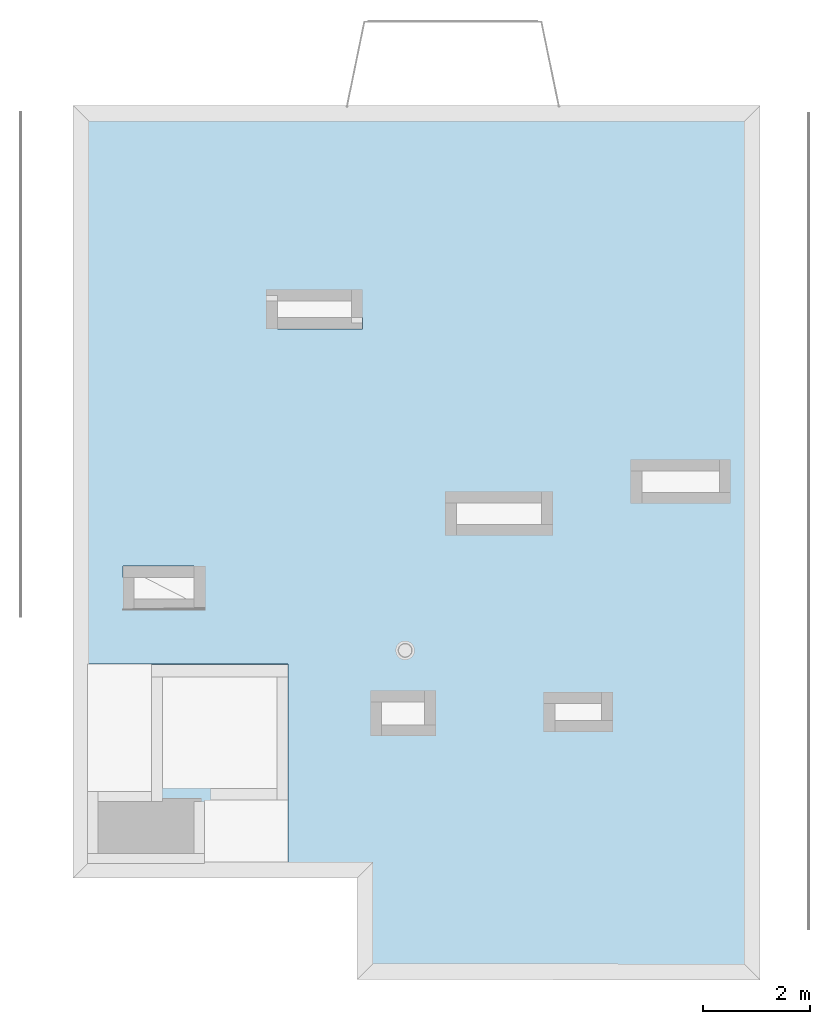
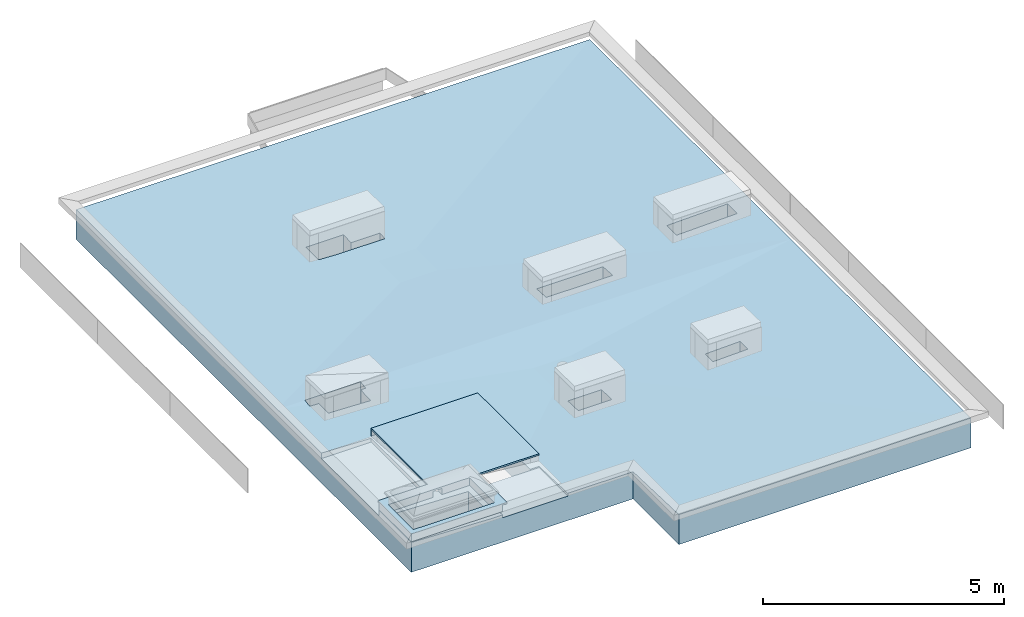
# One storey, part 3 of 6: 2 roofs.
"""IFC2X3 building model written with IfcOpenShell, lengths in millimetres."""

import ifcopenshell
import ifcopenshell.guid

model = None  # the IFC model being written
_history = None  # IfcOwnerHistory: only IFC2X3 demands one
_inside = {}  # id of a spatial element -> (the spatial element, [elements in it])
_under = {}  # id of a project, library or spatial element -> (it, [spatial elements below it])
_declared = {}  # id of a project -> (the project, [libraries it declares])
_typed = {}  # id of a type object -> (the type object, [elements of that type])
_made_of = {}  # id of a material, layer set ... -> (it, [elements and type objects made of it])


def new_model(schema):
    """Start an empty IFC model of exactly this schema.

    Asked for "IFC4X3", IfcOpenShell would pick the latest addendum, in which some entities
    have other attributes; the version numbers below select the first issue.
    IFC2X3 requires an IfcOwnerHistory on every rooted entity: one is made here for all.
    """
    global model, _history
    if schema == "IFC4X3":
        model = ifcopenshell.file(schema_version=(4, 3, 0, 0))
    else:
        model = ifcopenshell.file(schema=schema)
    _inside.clear()
    _under.clear()
    _declared.clear()
    _typed.clear()
    _made_of.clear()
    _history = None
    if model.schema == "IFC2X3":
        org = make("IfcOrganization", Name="unknown")
        user = make(
            "IfcPersonAndOrganization",
            ThePerson=make("IfcPerson", FamilyName="unknown"),
            TheOrganization=org,
        )
        app = make(
            "IfcApplication",
            ApplicationDeveloper=org,
            Version="unknown",
            ApplicationFullName="unknown",
            ApplicationIdentifier="unknown",
        )
        _history = make(
            "IfcOwnerHistory",
            OwningUser=user,
            OwningApplication=app,
            ChangeAction="ADDED",
            CreationDate=0,
        )
    return model


def make(cls, **values):
    """One entity of the class cls with the attributes given. An attribute that is None is left unset."""
    return model.create_entity(
        cls, **{name: value for name, value in values.items() if value is not None}
    )


def entity(cls, *values):
    """Any entity or typed value of the class cls, its attributes in the order of the schema. None: left unset."""
    e = model.create_entity(cls)
    for i, value in enumerate(values):
        if value is not None:
            e[i] = value
    return e


def rooted(cls, **values):
    """An entity with a GlobalId (a new one), such as an element, a storey or a relation."""
    return make(cls, GlobalId=ifcopenshell.guid.new(), OwnerHistory=_history, **values)


def si_unit(unit_type, name, prefix=None):
    """IfcSIUnit, for example si_unit("LENGTHUNIT", "METRE", prefix="MILLI")."""
    return make("IfcSIUnit", UnitType=unit_type, Prefix=prefix, Name=name)


def converted_unit(unit_type, name, factor, base, dimensions=None, offset=None):
    """IfcConversionBasedUnit, such as the inch: factor (a typed value) times the base unit."""
    return make(
        "IfcConversionBasedUnit"
        if offset is None
        else "IfcConversionBasedUnitWithOffset",
        ConversionOffset=offset,
        Dimensions=None
        if dimensions is None
        else entity("IfcDimensionalExponents", *dimensions),
        UnitType=unit_type,
        Name=name,
        ConversionFactor=make(
            "IfcMeasureWithUnit", ValueComponent=factor, UnitComponent=base
        ),
    )


def assignment(units):
    """IfcUnitAssignment: the units of a project."""
    return None if units is None else make("IfcUnitAssignment", Units=units)


def point(xyz):
    """IfcCartesianPoint."""
    return None if xyz is None else make("IfcCartesianPoint", Coordinates=xyz)


def direction(xyz):
    """IfcDirection."""
    return None if xyz is None else make("IfcDirection", DirectionRatios=xyz)


def frame(location, z_axis=None, x_axis=None):
    """IfcAxis2Placement3D, a coordinate frame: its origin and axes. An axis left out is left unset."""
    return make(
        "IfcAxis2Placement3D",
        Location=point(location),
        Axis=direction(z_axis),
        RefDirection=direction(x_axis),
    )


def origin():
    """The frame at (0, 0, 0) with its axes left unset."""
    return frame((0.0, 0.0, 0.0))


def place(relative_to, where):
    """IfcLocalPlacement: puts the frame where relative to a parent placement (None: the world)."""
    return make(
        "IfcLocalPlacement", PlacementRelTo=relative_to, RelativePlacement=where
    )


def context(
    kind, dimensions, precision=None, world=None, true_north=None, identifier=None
):
    """IfcGeometricRepresentationContext, for example the 3D "Model" context."""
    return make(
        "IfcGeometricRepresentationContext",
        ContextIdentifier=identifier,
        ContextType=kind,
        CoordinateSpaceDimension=dimensions,
        Precision=precision,
        WorldCoordinateSystem=world,
        TrueNorth=true_north,
    )


def subcontext(parent, identifier, kind, view, scale=None):
    """IfcGeometricRepresentationSubContext, for example "Body" below "Model"."""
    return make(
        "IfcGeometricRepresentationSubContext",
        ContextIdentifier=identifier,
        ContextType=kind,
        ParentContext=parent,
        TargetScale=scale,
        TargetView=view,
    )


def project(units=None, contexts=None):
    """IfcProject with its units and contexts."""
    return rooted(
        "IfcProject",
        Name="project",
        RepresentationContexts=contexts,
        UnitsInContext=assignment(units),
    )


def spatial(cls, under=None, at=None, **own):
    """A site, building, storey or space (cls), placed at a placement, below another one or the project."""
    s = rooted(cls, ObjectPlacement=at, **own)
    if under is not None:
        _under.setdefault(under.id(), (under, []))[1].append(s)
    return s


def faces_of(points, faces, orient=None, outer=None):
    """IfcFace entities. A face is a list of loops; a loop is a list of indices into points, from 0.

    orient and outer hold one flag for each loop. By default every Orientation is true, the
    first loop of a face is its IfcFaceOuterBound and the others are IfcFaceBound.
    """
    made = []
    for i, loops in enumerate(faces):
        bounds = []
        for j, loop in enumerate(loops):
            is_outer = j == 0 if outer is None else outer[i][j]
            bounds.append(
                make(
                    "IfcFaceOuterBound" if is_outer else "IfcFaceBound",
                    Bound=make("IfcPolyLoop", Polygon=[points[k] for k in loop]),
                    Orientation=True if orient is None else orient[i][j],
                )
            )
        made.append(make("IfcFace", Bounds=bounds))
    return made


def faceted_brep(points, faces, orient=None, outer=None, voids=None):
    """IfcFacetedBrep: a solid bounded by flat faces; with voids (closed shells), ...WithVoids."""
    shared = [point(p) for p in points]
    hull = make("IfcClosedShell", CfsFaces=faces_of(shared, faces, orient, outer))
    if voids is None:
        return make("IfcFacetedBrep", Outer=hull)
    return make(
        "IfcFacetedBrepWithVoids",
        Outer=hull,
        Voids=[
            make(cls, CfsFaces=faces_of(shared, fs, o, b)) for cls, fs, o, b in voids
        ],
    )


def shape(context_of_items, identifier, shape_type, items):
    """IfcShapeRepresentation: the items that make up one representation, for example the "Body"."""
    return make(
        "IfcShapeRepresentation",
        ContextOfItems=context_of_items,
        RepresentationIdentifier=identifier,
        RepresentationType=shape_type,
        Items=items,
    )


def material(Name=None, Category=None):
    """IfcMaterial."""
    return make("IfcMaterial", Name=Name, Category=Category)


def layer(
    of_material, thickness, ventilated=None, Name=None, Category=None, Priority=None
):
    """IfcMaterialLayer: one layer of a wall or slab, of a material (None: an air gap)."""
    return make(
        "IfcMaterialLayer",
        Material=of_material,
        LayerThickness=thickness,
        IsVentilated=ventilated,
        Name=Name,
        Category=Category,
        Priority=Priority,
    )


def layer_set(layers, Name=None):
    """IfcMaterialLayerSet."""
    return make("IfcMaterialLayerSet", MaterialLayers=layers, LayerSetName=Name)


def made_of(thing, what):
    """Note that an element or type object is made of a material, layer set ...; save() writes the relation."""
    if what is not None:
        _made_of.setdefault(what.id(), (what, []))[1].append(thing)
    return thing


def type_object(cls, material=None, **own):
    """A type object (cls), such as IfcWallType, which elements share."""
    return made_of(rooted(cls, **own), material)


def element(
    cls,
    number,
    at=None,
    inside=None,
    cuts=None,
    type_object=None,
    material=None,
    context=None,
    identifier="Body",
    shape_type=None,
    held_by="IfcProductDefinitionShape",
    body=None,
    shapes=None,
    **own,
):
    """One element of the class cls, such as IfcWall. Its Tag is "e" and its number.

    at: its placement. inside: the storey or other place that contains it. cuts: it is an
    opening in that element (IfcRelVoidsElement). A single representation is given by context,
    identifier, shape_type and body (its items); several are given by shapes. held_by: the class
    of the entity that holds the representations. save() writes the other relations.
    """
    e = rooted(cls, Tag="e%d" % number, ObjectPlacement=at, **own)
    if body is not None:
        shapes = [shape(context, identifier, shape_type, body)]
    if shapes is not None:
        e.Representation = make(held_by, Representations=shapes)
    if inside is not None:
        _inside.setdefault(inside.id(), (inside, []))[1].append(e)
    if cuts is not None:
        rooted(
            "IfcRelVoidsElement", RelatingBuildingElement=cuts, RelatedOpeningElement=e
        )
    if type_object is not None:
        _typed.setdefault(type_object.id(), (type_object, []))[1].append(e)
    return made_of(e, material)


def aggregate(whole, parts):
    """IfcRelAggregates: a whole, such as a stair, and the parts it consists of."""
    return rooted("IfcRelAggregates", RelatingObject=whole, RelatedObjects=parts)


def save(model, path):
    """Write the relations noted so far, then the file.

    IfcRelAggregates (storeys below a building ...), IfcRelContainedInSpatialStructure (elements
    in a storey), IfcRelDefinesByType, IfcRelAssociatesMaterial and IfcRelDeclares: one each for
    every whole, place, type object, material and project.
    """
    for whole, parts in _under.values():
        aggregate(whole, parts)
    for where, things in _inside.values():
        rooted(
            "IfcRelContainedInSpatialStructure",
            RelatedElements=things,
            RelatingStructure=where,
        )
    for kind, things in _typed.values():
        rooted("IfcRelDefinesByType", RelatedObjects=things, RelatingType=kind)
    for what, things in _made_of.values():
        rooted("IfcRelAssociatesMaterial", RelatedObjects=things, RelatingMaterial=what)
    for by, libraries in _declared.values():
        rooted("IfcRelDeclares", RelatingContext=by, RelatedDefinitions=libraries)
    model.write(path)


model = new_model("IFC2X3")

# Units and contexts
model_context = context("Model", 3, precision=0.01, world=origin(), true_north=direction((6.123233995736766e-17, 1.0)))
plan_context = context("Plan", 3, precision=0.01, world=origin(), true_north=direction((6.123233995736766e-17, 1.0)))
body_context = subcontext(model_context, "Body", "Model", "MODEL_VIEW")
ifc_project = project(units=[si_unit("LENGTHUNIT", "METRE", prefix="MILLI"), converted_unit("PLANEANGLEUNIT", "DEGREE", entity("IfcPlaneAngleMeasure", 0.017453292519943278), si_unit("PLANEANGLEUNIT", "RADIAN"), dimensions=[0, 0, 0, 0, 0, 0, 0]), si_unit("AREAUNIT", "SQUARE_METRE")], contexts=[model_context, plan_context])

# Site, building, storey
site_placement = place(None, origin())
site = spatial("IfcSite", under=ifc_project, at=site_placement, Name="Default", CompositionType="ELEMENT")
building_placement = place(site_placement, origin())
building = spatial("IfcBuilding", under=site, at=building_placement, CompositionType="ELEMENT")
storey_placement = place(building_placement, frame((0.0, 0.0, 16500.0)))
storey = spatial("IfcBuildingStorey", under=building, at=storey_placement, Name="Parapet", CompositionType="ELEMENT", Elevation=16499.999999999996)

# Roofs
ifc_material_1 = material(Name="_K. Katusekate. Rullmaterjal. SBS")
ifc_layer_1 = layer(ifc_material_1, 10.0)
ifc_material_2 = material(Name="_K. Soojustus. Mineraalvill")
ifc_layer_2 = layer(ifc_material_2, 30.0)
ifc_material_3 = material(Name="_K. Soojustus. EPS")
ifc_layer_3 = layer(ifc_material_3, 190.00000000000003)
ifc_layer_4 = layer(ifc_material_3, 300.0)
ifc_material_4 = material(Name="_K. Aurutõke. Rullmaterjal. SBS")
ifc_layer_5 = layer(ifc_material_4, 5.0)
ifc_material_5 = material(Name="_K. Betoon. Armeeritud. Monteeritav")
ifc_layer_6 = layer(ifc_material_5, 220.0)
ifc_layer_set_1 = layer_set([ifc_layer_1, ifc_layer_2, ifc_layer_3, ifc_layer_4, ifc_layer_5, ifc_layer_6], Name="Basic Roof:KL-01")
type_product_1 = type_object("IfcTypeProduct", Name="Basic Roof:KL-01")
roof_1_placement = place(storey_placement, frame((-190.0, -190.0, -939.0012876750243)))
element("IfcRoof", 1, at=roof_1_placement, inside=storey, type_object=type_product_1, material=ifc_layer_set_1, Name="Basic Roof:KL-01", ObjectType="Basic Roof:KL-01", ShapeType="NOTDEFINED", context=body_context, shape_type="Brep", body=[
    faceted_brep([(12280.0, 15780.0, 0.0), (12280.0, 0.0, 0.0), (5300.0, 0.0, 0.0), (5300.0, 1900.0, 0.0), (0.0, 1900.0, 0.0), (0.0, 15780.0, 0.0), (190.0, 2090.0, 0.0), (1990.0, 2090.0, 0.0), (1990.0, 2990.0, 0.0), (190.0, 2990.0, 0.0), (1880.0, 6840.0, 0.0), (1880.0, 7240.0, 0.0), (870.0, 7240.0, 0.0), (870.0, 6840.0, 0.0), (6289.9971970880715, 4490.0, 0.0), (6289.9971970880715, 4920.0, 0.0), (5484.9971970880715, 4920.0, 0.0), (5484.9971970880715, 4490.0, 0.0), (9590.0, 4570.0, 0.0), (9590.0, 4890.0, 0.0), (8750.0, 4890.0, 0.0), (8750.0, 4570.0, 0.0), (8470.0, 8230.0, 0.0), (8470.0, 8630.0, 0.0), (6880.0, 8630.0, 0.0), (6880.0, 8230.0, 0.0), (11790.0, 8830.0, 0.0), (11790.0, 9230.0, 0.0), (10340.0, 9230.0, 0.0), (10340.0, 8830.0, 0.0), (4440.0, 12090.0, 0.0), (4440.0, 12400.0, 0.0), (3540.0, 12400.0, 0.0), (3540.0, 12090.0, 0.0), (3529.9935349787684, 5379.99843361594, 0.0), (1399.9935349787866, 5379.99843361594, 0.0), (1399.9935349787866, 3299.9938559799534, 0.0), (3529.9935349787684, 3299.9938559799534, 0.0), (0.0, 15780.0, 755.0), (12280.0, 15780.0, 755.0), (12280.0, 7450.0, 755.0), (12280.0, 0.0, 755.0), (5300.0, 0.0, 755.0), (0.0, 1900.0, 755.0), (0.0, 2089.9697985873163, 755.0), (0.0, 3250.0, 755.0), (0.0, 3250.0, 619.0012876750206), (0.0, 5624.995381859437, 619.0012876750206), (0.0, 5624.995381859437, 755.0), (0.0, 7450.0, 755.0), (1990.0, 2090.0, 685.9410719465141), (190.0, 2090.0, 748.406434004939), (190.0, 2990.0, 748.406434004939), (1990.0, 2990.0, 685.9410719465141), (1880.0, 6840.0, 689.7583996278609), (1880.0, 7065.415328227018, 689.758399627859), (1880.0, 7240.0, 719.3752414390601), (1880.0, 7240.0, 44.00002217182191), (870.0, 7240.0, 44.00002217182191), (870.0, 6840.0, 724.8084083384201), (870.0, 7240.0, 724.8084083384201), (3529.993534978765, 3089.9938559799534, 439.00128767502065), (2290.0, 3089.9938559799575, 439.00128767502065), (2290.0, 3089.9938559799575, 619.0012876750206), (3529.993534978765, 3089.9938559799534, 619.0012876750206), (3529.9935349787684, 3299.9938559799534, 439.00128767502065), (2290.0, 3299.9938559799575, 439.00128767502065), (6289.9971970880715, 4490.0, 597.8924091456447), (6289.9971970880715, 4920.0, 582.8464706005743), (5484.9971970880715, 4920.0, 582.8464706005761), (5484.9971970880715, 4490.0, 597.8924091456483), (9590.0, 4570.0, 668.4468596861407), (9590.0, 4890.0, 668.4468596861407), (8750.0, 4890.0, 641.4191132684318), (8750.0, 4570.0, 641.4191132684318), (8470.0, 8230.0, 704.4201380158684), (8470.0, 8630.0, 678.481747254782), (6880.0, 8630.0, 678.481747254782), (6880.0, 8230.0, 704.4201380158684), (11790.0, 8830.0, 741.2079745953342), (11790.0, 9230.0, 741.207974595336), (10340.0, 9230.0, 700.3948381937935), (10340.0, 8830.0, 700.3948381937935), (4440.0, 12400.0, 612.2898560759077), (4440.0, 12090.0, 225.0), (4440.0, 12090.0, 599.2010558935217), (3540.0, 12400.0, 612.2898560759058), (3540.0, 12339.222956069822, 609.7237316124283), (3540.0, 11880.0, 609.7237316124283), (3540.0, 11880.0, 225.0), (3540.0, 12090.0, 225.0), (4629.768158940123, 10380.0, 565.0012876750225), (4629.768158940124, 11280.0, 565.0012876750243), (4012.465737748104, 11880.0, 590.334449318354), (3477.470306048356, 12400.0, 612.2898560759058), (3330.0, 12543.336848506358, 618.3418153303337), (5529.768158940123, 11280.0, 565.0012876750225), (5529.768158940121, 10380.0, 565.0012876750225), (5130.0, 12090.0, 599.2010558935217), (5130.0, 11880.0, 590.334449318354), (660.0, 7450.0, 755.0), (1990.0, 7450.0, 755.0), (6374.997197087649, 6330.0, 565.0012876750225), (5474.997197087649, 6330.0, 565.0012876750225), (5474.997197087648, 5430.0, 565.0012876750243), (6374.997197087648, 5430.0, 565.0012876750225), (660.0, 7314.986232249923, 732.0960339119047), (660.0, 7240.0, 732.0960339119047), (1189.9935349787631, 5624.995381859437, 713.703679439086), (1189.9935349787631, 5619.99843361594, 713.703679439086), (1189.9935349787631, 5379.99843361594, 713.7036794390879), (1189.993534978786, 3250.0, 713.7036794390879), (1915.7448755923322, 1900.0, 688.5179459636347), (2107.288911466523, 2089.96979858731, 681.8707973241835), (2180.0, 2162.0832986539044, 679.3475059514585), (2180.0, 3060.030201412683, 679.3475059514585), (2180.0, 3089.993855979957, 679.3475059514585), (2290.0, 3089.9938559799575, 675.5301782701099), (2290.0, 3299.9938559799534, 675.5301782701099), (1399.9935349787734, 3299.9938559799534, 706.4160538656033), (1399.9935349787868, 5379.99843361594, 706.4160538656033), (3529.993534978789, 5379.99843361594, 632.4987087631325), (3529.9935349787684, 3500.98168180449, 632.4987087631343), (3739.9935349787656, 3709.255761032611, 625.2110831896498), (3529.993534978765, 3089.993855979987, 646.8794007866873), (3739.9935349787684, 3089.993855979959, 646.8794007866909), (3739.993534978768, 1900.0, 688.5179459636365), (5300.0, 1900.0, 688.5179459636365), (3739.9935349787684, 1900.0, 619.0012876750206), (2180.0, 1900.0, 619.0012876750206), (2180.0, 1900.0, 688.5179459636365), (660.0, 7240.0, 44.00002217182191), (660.0, 7450.0, 44.00002217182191), (1990.0, 7450.0, 44.00002217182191), (1990.0, 7240.0, 44.00002217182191), (1990.0, 7240.0, 719.3752414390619), (2180.0, 3089.993855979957, 619.0012876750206), (3739.9935349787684, 3089.993855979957, 619.0012876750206), (2180.0, 2089.96979858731, 681.8707973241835), (1189.9935349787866, 5624.995381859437, 619.0012876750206), (1189.9935349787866, 3250.0, 619.0012876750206), (5130.0, 12090.0, 225.0), (5130.0, 11880.0, 225.0)], [[[0, 1, 2, 3, 4, 5], [6, 7, 8, 9], [10, 11, 12, 13], [14, 15, 16, 17], [18, 19, 20, 21], [22, 23, 24, 25], [26, 27, 28, 29], [30, 31, 32, 33], [34, 35, 36, 37]], [[0, 5, 38, 39]], [[1, 0, 39, 40, 41]], [[1, 41, 42, 2]], [[38, 5, 4, 43, 44, 45, 46, 47, 48, 49]], [[50, 7, 6, 51]], [[9, 52, 51, 6]], [[52, 9, 8, 53]], [[7, 50, 53, 8]], [[10, 54, 55, 56, 57, 11]], [[12, 11, 57, 58]], [[59, 13, 12, 58, 60]], [[54, 10, 13, 59]], [[61, 62, 63, 64]], [[62, 61, 65, 66]], [[14, 67, 68, 15]], [[15, 68, 69, 16]], [[16, 69, 70, 17]], [[67, 14, 17, 70]], [[18, 71, 72, 19]], [[19, 72, 73, 20]], [[20, 73, 74, 21]], [[71, 18, 21, 74]], [[22, 75, 76, 23]], [[23, 76, 77, 24]], [[24, 77, 78, 25]], [[75, 22, 25, 78]], [[26, 79, 80, 27]], [[27, 80, 81, 28]], [[28, 81, 82, 29]], [[79, 26, 29, 82]], [[83, 31, 30, 84, 85]], [[31, 83, 86, 32]], [[32, 86, 87, 88, 89, 90, 33]], [[30, 33, 90, 84]], [[38, 49, 91, 92, 93, 88, 87, 94, 95]], [[96, 92, 91, 97]], [[39, 38, 95, 94, 87, 86, 83, 85, 98, 99, 93, 92, 96]], [[97, 91, 49, 100, 101, 40], [76, 75, 78, 77]], [[40, 39, 96, 97], [80, 79, 82, 81]], [[102, 103, 104, 105]], [[106, 100, 49]], [[41, 40, 102, 105], [72, 71, 74, 73]], [[104, 103, 55, 54, 59, 60, 107, 106, 49, 48, 108, 109, 110, 111, 45, 44, 43, 112, 113, 114, 115, 116, 117, 118, 119, 120, 121, 122, 123], [50, 51, 52, 53]], [[105, 104, 123, 122, 124, 125, 126, 127, 42, 41], [68, 67, 70, 69]], [[127, 3, 2, 42]], [[3, 127, 126, 128, 129, 130, 112, 43, 4]], [[131, 107, 60, 58]], [[132, 133, 101, 100]], [[133, 132, 131, 58, 57, 134]], [[131, 132, 100, 106, 107]], [[133, 134, 135, 101]], [[34, 121, 120, 35]], [[35, 120, 119, 36]], [[36, 119, 118, 66, 65, 37]], [[65, 61, 64, 124, 122, 121, 34, 37]], [[136, 129, 128, 137, 64, 63]], [[137, 125, 124, 64]], [[129, 136, 116, 115, 114, 138, 130]], [[137, 128, 126, 125]], [[62, 66, 118, 117, 63]], [[139, 47, 46, 140]], [[47, 139, 108, 48]], [[139, 140, 111, 110, 109, 108]], [[140, 46, 45, 111]], [[84, 141, 98, 85]], [[142, 89, 88, 93, 99]], [[89, 142, 141, 84, 90]], [[141, 142, 99, 98]], [[136, 63, 117, 116]], [[135, 134, 57, 56]], [[114, 113, 112, 130, 138]], [[103, 102, 40, 101, 135, 56, 55]]]),
])
ifc_layer_7 = layer(ifc_material_1, 10.0)
ifc_layer_8 = layer(ifc_material_2, 30.0)
ifc_layer_9 = layer(ifc_material_3, 50.0)
ifc_layer_10 = layer(ifc_material_3, 100.0)
ifc_layer_11 = layer(ifc_material_4, 5.0)
ifc_layer_set_2 = layer_set([ifc_layer_7, ifc_layer_8, ifc_layer_9, ifc_layer_10, ifc_layer_11], Name="Basic Roof:KL-05")
type_product_2 = type_object("IfcTypeProduct", Name="Basic Roof:KL-05")
roof_2_placement = place(storey_placement, frame((-190.0, 1710.0, -165.0)))
element("IfcRoof", 2, at=roof_2_placement, inside=storey, type_object=type_product_2, material=ifc_layer_set_2, Name="Basic Roof:KL-05", ObjectType="Basic Roof:KL-05", ShapeType="NOTDEFINED", context=body_context, shape_type="Brep", body=[
    faceted_brep([(1189.993534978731, 3724.9953818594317, 0.0), (3739.9935349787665, 3724.9953818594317, 0.0), (3739.9935349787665, 3719.9984336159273, 0.0), (1189.993534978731, 3719.9984336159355, 0.0), (2290.0, 1189.9938559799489, 195.0), (3739.9935349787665, 1189.9938559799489, 195.0), (3739.9935349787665, 3724.9953818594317, 195.0), (1189.993534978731, 3724.9953818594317, 195.0), (1189.993534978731, 1390.0, 195.0), (0.0, 1390.0, 195.0), (0.0, 0.0, 195.0), (2290.0, 0.0, 195.0), (120.0, 1160.0302014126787, 195.0), (2060.0, 1160.0302014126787, 195.0), (2060.0, 119.9697985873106, 195.0), (120.0, 119.9697985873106, 195.0), (1189.993534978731, 3719.9984336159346, 155.0), (1189.993534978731, 3479.9984336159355, 155.0), (1189.993534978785, 1350.0, 155.0), (1189.993534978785, 1350.0, 165.0), (1189.993534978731, 1390.0, 161.96841515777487), (2290.0, 1189.9938559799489, 155.0), (3529.993534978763, 1189.9938559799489, 155.0), (3739.9935349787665, 1189.9938559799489, 155.0), (3739.9935349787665, 3479.9984336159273, 155.0), (3739.9935349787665, 3719.9984336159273, 155.0), (3529.9935349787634, 1399.9938559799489, 155.0), (2290.0, 1399.993855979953, 155.0), (2290.0, 1399.993855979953, 0.0), (3529.9935349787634, 1399.9938559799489, 0.0), (3529.9935349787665, 3479.998433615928, 155.0), (1399.993534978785, 3479.9984336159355, 155.0), (1399.993534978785, 1160.0302014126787, 155.0), (1189.993534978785, 1160.0302014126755, 155.0), (3529.9935349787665, 3479.998433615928, 0.0), (1399.993534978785, 3479.9984336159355, 0.0), (1399.993534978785, 1399.9938559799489, 0.0), (1399.993534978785, 1160.0302014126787, 0.0), (1189.993534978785, 1160.0302014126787, 0.0), (1189.993534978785, 1350.0, 0.0), (2290.0, 0.0, 154.4230330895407), (2290.0, 1189.9938559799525, 154.4230330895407), (2290.0, 1189.9938559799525, 0.0), (0.0, 0.0, 0.0), (2180.0, 0.0, 0.0), (2180.0, 0.0, 165.0), (0.0, 1390.0, 161.96841515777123), (0.0, 1350.0, 165.0), (0.0, 1350.0, 0.0), (120.0, 1160.0302014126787, 0.0), (2060.0, 1160.0302014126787, 0.0), (2060.0, 119.96979858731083, 0.0), (120.0, 119.96979858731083, 0.0), (2180.0, 1189.9938559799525, 165.0), (2180.0, 1189.9938559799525, 0.0)], [[[0, 1, 2, 3]], [[4, 5, 6, 7, 8, 9, 10, 11], [12, 13, 14, 15]], [[1, 0, 7, 6]], [[8, 7, 0, 3, 16, 17, 18, 19, 20]], [[5, 4, 21, 22, 23]], [[6, 5, 23, 24, 25, 2, 1]], [[26, 27, 28, 29]], [[27, 26, 30, 31, 32, 33, 18, 17, 16, 25, 24, 23, 22, 21]], [[30, 26, 29, 34]], [[32, 31, 35, 36, 37]], [[33, 38, 39, 18]], [[34, 35, 31, 30]], [[25, 16, 3, 2]], [[4, 11, 40, 41, 42, 28, 27, 21]], [[11, 10, 43, 44, 45, 40]], [[10, 9, 46, 47, 48, 43]], [[9, 8, 20, 46]], [[12, 49, 38, 33, 32, 37, 50, 13]], [[13, 50, 51, 14]], [[14, 51, 52, 15]], [[49, 12, 15, 52]], [[47, 19, 18, 39, 48]], [[19, 47, 46, 20]], [[53, 54, 42, 41]], [[53, 45, 44, 54]], [[45, 53, 41, 40]], [[29, 28, 42, 54, 44, 43, 48, 39, 38, 49, 52, 51, 50, 37, 36, 35, 34]]]),
])

save(model, "model.ifc")
